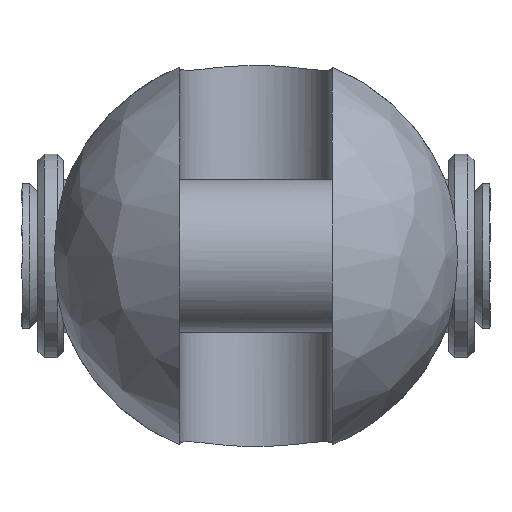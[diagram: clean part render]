
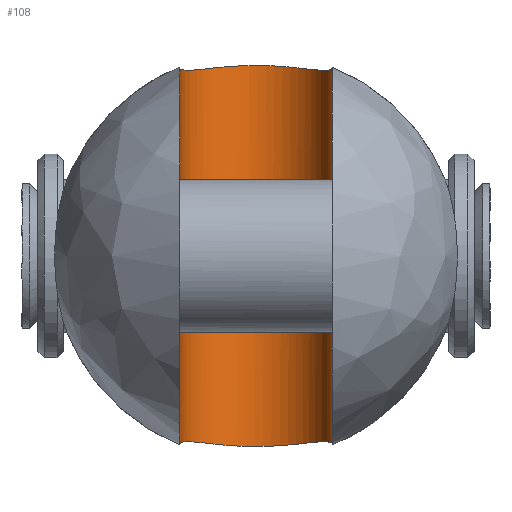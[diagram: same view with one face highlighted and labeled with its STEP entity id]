
A CAD part, left-side view. The second image highlights one B-rep face of the part: STEP entity #108.
In plain terms, the highlighted cylindrical face has radius 6 mm (diameter 12 mm), a partial arc.
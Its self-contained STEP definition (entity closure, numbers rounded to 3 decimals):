
#108=ADVANCED_FACE('',(#197),#1525,.F.);
#197=FACE_OUTER_BOUND('',#295,.T.);
#295=EDGE_LOOP('',(#704,#705,#706,#707,#708,#709,#710,#711));
#704=ORIENTED_EDGE('',*,*,#1001,.F.);
#705=ORIENTED_EDGE('',*,*,#1002,.F.);
#706=ORIENTED_EDGE('',*,*,#1003,.F.);
#707=ORIENTED_EDGE('',*,*,#1004,.F.);
#708=ORIENTED_EDGE('',*,*,#1005,.F.);
#709=ORIENTED_EDGE('',*,*,#1006,.F.);
#710=ORIENTED_EDGE('',*,*,#1007,.F.);
#711=ORIENTED_EDGE('',*,*,#1000,.F.);
#1000=EDGE_CURVE('',#1430,#1442,#1122,.T.);
#1001=EDGE_CURVE('',#1429,#1430,#1123,.T.);
#1002=EDGE_CURVE('',#1445,#1429,#1124,.T.);
#1003=EDGE_CURVE('',#1446,#1445,#1125,.T.);
#1004=EDGE_CURVE('',#1433,#1446,#1126,.T.);
#1005=EDGE_CURVE('',#1432,#1433,#1127,.T.);
#1006=EDGE_CURVE('',#1441,#1432,#1128,.T.);
#1007=EDGE_CURVE('',#1442,#1441,#1129,.T.);
#1122=B_SPLINE_CURVE_WITH_KNOTS('',3,(#3447,#3448,#3449,#3450),
 .UNSPECIFIED.,.F.,.F.,(4,4),(-1.381,0.),.UNSPECIFIED.);
#1123=B_SPLINE_CURVE_WITH_KNOTS('',3,(#3451,#3452,#3453,#3454,#3455,#3456,
#3457,#3458,#3459,#3460,#3461,#3462,#3463,#3464,#3465,#3466,#3467,#3468),
 .UNSPECIFIED.,.F.,.F.,(4,2,2,2,2,2,2,2,4),(-16.223,-14.966,
-12.694,-10.403,-8.112,-5.821,-3.53,
-1.258,0.),.UNSPECIFIED.);
#1124=B_SPLINE_CURVE_WITH_KNOTS('',3,(#3469,#3470,#3471,#3472),
 .UNSPECIFIED.,.F.,.F.,(4,4),(-1.381,0.),.UNSPECIFIED.);
#1125=B_SPLINE_CURVE_WITH_KNOTS('',1,(#3473,#3474),.UNSPECIFIED.,.F.,.F.,
(2,2),(-29.536,0.),.UNSPECIFIED.);
#1126=B_SPLINE_CURVE_WITH_KNOTS('',3,(#3475,#3476,#3477,#3478),
 .UNSPECIFIED.,.F.,.F.,(4,4),(-1.381,0.),.UNSPECIFIED.);
#1127=B_SPLINE_CURVE_WITH_KNOTS('',3,(#3479,#3480,#3481,#3482,#3483,#3484,
#3485,#3486,#3487,#3488,#3489,#3490,#3491,#3492,#3493,#3494,#3495,#3496),
 .UNSPECIFIED.,.F.,.F.,(4,2,2,2,2,2,2,2,4),(-16.223,-14.966,
-12.694,-10.403,-8.112,-5.821,
-3.53,-1.258,0.),.UNSPECIFIED.);
#1128=B_SPLINE_CURVE_WITH_KNOTS('',3,(#3497,#3498,#3499,#3500),
 .UNSPECIFIED.,.F.,.F.,(4,4),(-1.381,0.),.UNSPECIFIED.);
#1129=B_SPLINE_CURVE_WITH_KNOTS('',1,(#3501,#3502),.UNSPECIFIED.,.F.,.F.,
(2,2),(-29.536,0.),.UNSPECIFIED.);
#1429=VERTEX_POINT('',#3320);
#1430=VERTEX_POINT('',#3321);
#1432=VERTEX_POINT('',#3323);
#1433=VERTEX_POINT('',#3324);
#1441=VERTEX_POINT('',#3332);
#1442=VERTEX_POINT('',#3333);
#1445=VERTEX_POINT('',#3336);
#1446=VERTEX_POINT('',#3337);
#1525=CYLINDRICAL_SURFACE('',#1696,6.);
#1696=AXIS2_PLACEMENT_3D('',#3162,#1760,$);
#1760=DIRECTION('',(0.,0.,1.));
#3162=CARTESIAN_POINT('',(20.5,0.,0.));
#3320=CARTESIAN_POINT('',(21.86,-5.844,-14.64));
#3321=CARTESIAN_POINT('',(21.86,5.844,-14.64));
#3323=CARTESIAN_POINT('',(21.86,5.844,14.64));
#3324=CARTESIAN_POINT('',(21.86,-5.844,14.64));
#3332=CARTESIAN_POINT('',(20.5,6.,14.768));
#3333=CARTESIAN_POINT('',(20.5,6.,-14.768));
#3336=CARTESIAN_POINT('',(20.5,-6.,-14.768));
#3337=CARTESIAN_POINT('',(20.5,-6.,14.768));
#3447=CARTESIAN_POINT('',(21.86,5.844,-14.64));
#3448=CARTESIAN_POINT('',(21.405,5.95,-14.683));
#3449=CARTESIAN_POINT('',(20.943,6.,-14.727));
#3450=CARTESIAN_POINT('',(20.5,6.,-14.768));
#3451=CARTESIAN_POINT('',(21.86,-5.844,-14.64));
#3452=CARTESIAN_POINT('',(22.264,-5.75,-14.602));
#3453=CARTESIAN_POINT('',(22.666,-5.611,-14.582));
#3454=CARTESIAN_POINT('',(23.742,-5.106,-14.571));
#3455=CARTESIAN_POINT('',(24.37,-4.641,-14.617));
#3456=CARTESIAN_POINT('',(25.36,-3.592,-14.733));
#3457=CARTESIAN_POINT('',(25.79,-2.934,-14.81));
#3458=CARTESIAN_POINT('',(26.36,-1.502,-14.923));
#3459=CARTESIAN_POINT('',(26.5,-0.727,-14.957));
#3460=CARTESIAN_POINT('',(26.5,0.727,-14.957));
#3461=CARTESIAN_POINT('',(26.36,1.502,-14.923));
#3462=CARTESIAN_POINT('',(25.79,2.934,-14.81));
#3463=CARTESIAN_POINT('',(25.36,3.592,-14.733));
#3464=CARTESIAN_POINT('',(24.37,4.641,-14.617));
#3465=CARTESIAN_POINT('',(23.742,5.106,-14.571));
#3466=CARTESIAN_POINT('',(22.666,5.611,-14.582));
#3467=CARTESIAN_POINT('',(22.264,5.75,-14.602));
#3468=CARTESIAN_POINT('',(21.86,5.844,-14.64));
#3469=CARTESIAN_POINT('',(20.5,-6.,-14.768));
#3470=CARTESIAN_POINT('',(20.943,-6.,-14.727));
#3471=CARTESIAN_POINT('',(21.405,-5.95,-14.683));
#3472=CARTESIAN_POINT('',(21.86,-5.844,-14.64));
#3473=CARTESIAN_POINT('',(20.5,-6.,14.768));
#3474=CARTESIAN_POINT('',(20.5,-6.,-14.768));
#3475=CARTESIAN_POINT('',(21.86,-5.844,14.64));
#3476=CARTESIAN_POINT('',(21.405,-5.95,14.683));
#3477=CARTESIAN_POINT('',(20.943,-6.,14.727));
#3478=CARTESIAN_POINT('',(20.5,-6.,14.768));
#3479=CARTESIAN_POINT('',(21.86,5.844,14.64));
#3480=CARTESIAN_POINT('',(22.264,5.75,14.602));
#3481=CARTESIAN_POINT('',(22.666,5.611,14.582));
#3482=CARTESIAN_POINT('',(23.742,5.106,14.571));
#3483=CARTESIAN_POINT('',(24.37,4.641,14.617));
#3484=CARTESIAN_POINT('',(25.36,3.592,14.733));
#3485=CARTESIAN_POINT('',(25.79,2.934,14.81));
#3486=CARTESIAN_POINT('',(26.36,1.502,14.923));
#3487=CARTESIAN_POINT('',(26.5,0.727,14.957));
#3488=CARTESIAN_POINT('',(26.5,-0.727,14.957));
#3489=CARTESIAN_POINT('',(26.36,-1.502,14.923));
#3490=CARTESIAN_POINT('',(25.79,-2.934,14.81));
#3491=CARTESIAN_POINT('',(25.36,-3.592,14.733));
#3492=CARTESIAN_POINT('',(24.37,-4.641,14.617));
#3493=CARTESIAN_POINT('',(23.742,-5.106,14.571));
#3494=CARTESIAN_POINT('',(22.666,-5.611,14.582));
#3495=CARTESIAN_POINT('',(22.264,-5.75,14.602));
#3496=CARTESIAN_POINT('',(21.86,-5.844,14.64));
#3497=CARTESIAN_POINT('',(20.5,6.,14.768));
#3498=CARTESIAN_POINT('',(20.943,6.,14.727));
#3499=CARTESIAN_POINT('',(21.405,5.95,14.683));
#3500=CARTESIAN_POINT('',(21.86,5.844,14.64));
#3501=CARTESIAN_POINT('',(20.5,6.,-14.768));
#3502=CARTESIAN_POINT('',(20.5,6.,14.768));
